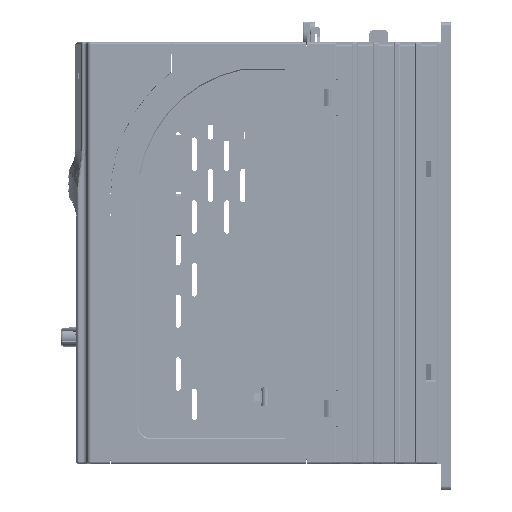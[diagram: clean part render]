
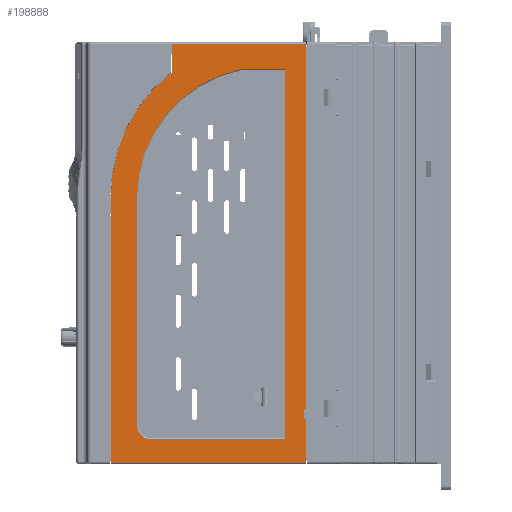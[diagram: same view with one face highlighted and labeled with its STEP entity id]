
A CAD part, left-side view. The second image highlights one B-rep face of the part: STEP entity #198888.
In plain terms, the highlighted planar face has unit normal (-1, 0, 0).
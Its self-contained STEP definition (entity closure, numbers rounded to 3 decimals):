
#159775=DIRECTION('',(0.,0.,1.));
#159776=VECTOR('',#159775,21.);
#159777=CARTESIAN_POINT('',(-44.5,0.,-103.));
#159778=LINE('',#159777,#159776);
#163243=DIRECTION('',(0.,1.,0.));
#163244=VECTOR('',#163243,1.2);
#163245=CARTESIAN_POINT('',(-44.5,0.,-82.));
#163246=LINE('',#163245,#163244);
#163460=DIRECTION('',(0.,0.,1.));
#163461=VECTOR('',#163460,180.);
#163462=CARTESIAN_POINT('',(-44.5,0.,-77.));
#163463=LINE('',#163462,#163461);
#163485=DIRECTION('',(0.,1.,0.));
#163486=VECTOR('',#163485,1.2);
#163487=CARTESIAN_POINT('',(-44.5,0.,-77.));
#163488=LINE('',#163487,#163486);
#163489=DIRECTION('',(0.,0.,-1.));
#163490=VECTOR('',#163489,5.);
#163491=CARTESIAN_POINT('',(-44.5,1.2,-77.));
#163492=LINE('',#163491,#163490);
#163493=DIRECTION('',(0.,0.,1.));
#163494=VECTOR('',#163493,131.008);
#163495=CARTESIAN_POINT('',(-44.5,96.5,-103.));
#163496=LINE('',#163495,#163494);
#163497=CARTESIAN_POINT('',(-44.5,19.5,28.008));
#163498=DIRECTION('',(1.,0.,0.));
#163499=DIRECTION('',(0.,1.,0.));
#163500=AXIS2_PLACEMENT_3D('',#163497,#163498,#163499);
#163502=DIRECTION('',(0.,0.,1.));
#163503=VECTOR('',#163502,14.);
#163504=CARTESIAN_POINT('',(-44.5,66.5,89.));
#163505=LINE('',#163504,#163503);
#163506=CARTESIAN_POINT('',(-44.5,30.819,83.873));
#163507=DIRECTION('',(-1.,0.,0.));
#163508=DIRECTION('',(0.,0.,1.));
#163509=AXIS2_PLACEMENT_3D('',#163506,#163507,#163508);
#163511=CARTESIAN_POINT('',(-44.5,19.5,28.008));
#163512=DIRECTION('',(-1.,0.,0.));
#163513=DIRECTION('',(0.,0.199,0.98));
#163514=AXIS2_PLACEMENT_3D('',#163511,#163512,#163513);
#163516=CARTESIAN_POINT('',(-44.5,76.5,-85.));
#163517=DIRECTION('',(-1.,0.,0.));
#163518=DIRECTION('',(0.,1.,0.));
#163519=AXIS2_PLACEMENT_3D('',#163516,#163517,#163518);
#163521=DIRECTION('',(0.,-1.,0.));
#163522=VECTOR('',#163521,96.5);
#163523=CARTESIAN_POINT('',(-44.5,96.5,-103.));
#163524=LINE('',#163523,#163522);
#167181=DIRECTION('',(0.,1.,0.));
#167182=VECTOR('',#167181,66.5);
#167183=CARTESIAN_POINT('',(-44.5,0.,103.));
#167184=LINE('',#167183,#167182);
#167446=DIRECTION('',(0.,0.,-1.));
#167447=VECTOR('',#167446,182.873);
#167448=CARTESIAN_POINT('',(-44.5,10.5,90.873));
#167449=LINE('',#167448,#167447);
#167462=DIRECTION('',(0.,1.,0.));
#167463=VECTOR('',#167462,66.);
#167464=CARTESIAN_POINT('',(-44.5,10.5,-92.));
#167465=LINE('',#167464,#167463);
#167881=DIRECTION('',(0.,0.,1.));
#167882=VECTOR('',#167881,113.008);
#167883=CARTESIAN_POINT('',(-44.5,83.5,-85.));
#167884=LINE('',#167883,#167882);
#167897=DIRECTION('',(0.,-1.,0.));
#167898=VECTOR('',#167897,20.319);
#167899=CARTESIAN_POINT('',(-44.5,30.819,90.873));
#167900=LINE('',#167899,#167898);
#181942=CARTESIAN_POINT('',(-44.5,0.,-103.));
#181943=VERTEX_POINT('',#181942);
#181944=CARTESIAN_POINT('',(-44.5,0.,-82.));
#181945=VERTEX_POINT('',#181944);
#181985=CARTESIAN_POINT('',(-44.5,96.5,28.008));
#181986=VERTEX_POINT('',#181985);
#181987=CARTESIAN_POINT('',(-44.5,96.5,-103.));
#181988=VERTEX_POINT('',#181987);
#182912=CARTESIAN_POINT('',(-44.5,1.2,-82.));
#182914=VERTEX_POINT('',#182912);
#182926=CARTESIAN_POINT('',(-44.5,1.2,-77.));
#182927=VERTEX_POINT('',#182926);
#182932=CARTESIAN_POINT('',(-44.5,0.,-77.));
#182933=VERTEX_POINT('',#182932);
#182972=CARTESIAN_POINT('',(-44.5,0.,103.));
#182973=VERTEX_POINT('',#182972);
#182978=CARTESIAN_POINT('',(-44.5,66.5,89.));
#182979=VERTEX_POINT('',#182978);
#182980=CARTESIAN_POINT('',(-44.5,66.5,103.));
#182981=VERTEX_POINT('',#182980);
#182982=CARTESIAN_POINT('',(-44.5,10.5,90.873));
#182983=CARTESIAN_POINT('',(-44.5,10.5,-92.));
#182984=VERTEX_POINT('',#182982);
#182985=VERTEX_POINT('',#182983);
#182986=CARTESIAN_POINT('',(-44.5,30.819,90.873));
#182987=VERTEX_POINT('',#182986);
#182988=CARTESIAN_POINT('',(-44.5,32.209,90.734));
#182989=VERTEX_POINT('',#182988);
#182990=CARTESIAN_POINT('',(-44.5,83.5,28.008));
#182991=VERTEX_POINT('',#182990);
#182992=CARTESIAN_POINT('',(-44.5,83.5,-85.));
#182993=VERTEX_POINT('',#182992);
#182994=CARTESIAN_POINT('',(-44.5,76.5,-92.));
#182995=VERTEX_POINT('',#182994);
#198851=CARTESIAN_POINT('',(-44.5,0.,-104.));
#198852=DIRECTION('',(-1.,0.,0.));
#198853=DIRECTION('',(0.,0.,1.));
#198854=AXIS2_PLACEMENT_3D('',#198851,#198852,#198853);
#198855=PLANE('',#198854);
#198856=ORIENTED_EDGE('',*,*,#198543,.T.);
#198857=ORIENTED_EDGE('',*,*,#198513,.T.);
#198858=ORIENTED_EDGE('',*,*,#198500,.F.);
#198859=ORIENTED_EDGE('',*,*,#193836,.F.);
#198861=ORIENTED_EDGE('',*,*,#198860,.F.);
#198862=ORIENTED_EDGE('',*,*,#193911,.T.);
#198864=ORIENTED_EDGE('',*,*,#198863,.T.);
#198866=ORIENTED_EDGE('',*,*,#198865,.T.);
#198868=ORIENTED_EDGE('',*,*,#198867,.F.);
#198869=ORIENTED_EDGE('',*,*,#198836,.F.);
#198870=EDGE_LOOP('',(#198856,#198857,#198858,#198859,#198861,#198862,#198864,
#198866,#198868,#198869));
#198871=FACE_OUTER_BOUND('',#198870,.F.);
#198873=ORIENTED_EDGE('',*,*,#198872,.F.);
#198875=ORIENTED_EDGE('',*,*,#198874,.F.);
#198877=ORIENTED_EDGE('',*,*,#198876,.T.);
#198879=ORIENTED_EDGE('',*,*,#198878,.T.);
#198881=ORIENTED_EDGE('',*,*,#198880,.F.);
#198883=ORIENTED_EDGE('',*,*,#198882,.T.);
#198885=ORIENTED_EDGE('',*,*,#198884,.F.);
#198886=EDGE_LOOP('',(#198873,#198875,#198877,#198879,#198881,#198883,#198885));
#198887=FACE_BOUND('',#198886,.F.);
#198888=ADVANCED_FACE('',(#198871,#198887),#198855,.T.);
#163501=CIRCLE('',#163500,77.);
#163510=CIRCLE('',#163509,7.);
#163515=CIRCLE('',#163514,64.);
#163520=CIRCLE('',#163519,7.);
#193836=EDGE_CURVE('',#181943,#181945,#159778,.T.);
#193911=EDGE_CURVE('',#181988,#181986,#163496,.T.);
#198500=EDGE_CURVE('',#181945,#182914,#163246,.T.);
#198513=EDGE_CURVE('',#182927,#182914,#163492,.T.);
#198543=EDGE_CURVE('',#182933,#182927,#163488,.T.);
#198836=EDGE_CURVE('',#182933,#182973,#163463,.T.);
#198860=EDGE_CURVE('',#181988,#181943,#163524,.T.);
#198863=EDGE_CURVE('',#181986,#182979,#163501,.T.);
#198865=EDGE_CURVE('',#182979,#182981,#163505,.T.);
#198867=EDGE_CURVE('',#182973,#182981,#167184,.T.);
#198872=EDGE_CURVE('',#182984,#182985,#167449,.T.);
#198874=EDGE_CURVE('',#182987,#182984,#167900,.T.);
#198876=EDGE_CURVE('',#182987,#182989,#163510,.T.);
#198878=EDGE_CURVE('',#182989,#182991,#163515,.T.);
#198880=EDGE_CURVE('',#182993,#182991,#167884,.T.);
#198882=EDGE_CURVE('',#182993,#182995,#163520,.T.);
#198884=EDGE_CURVE('',#182985,#182995,#167465,.T.);
